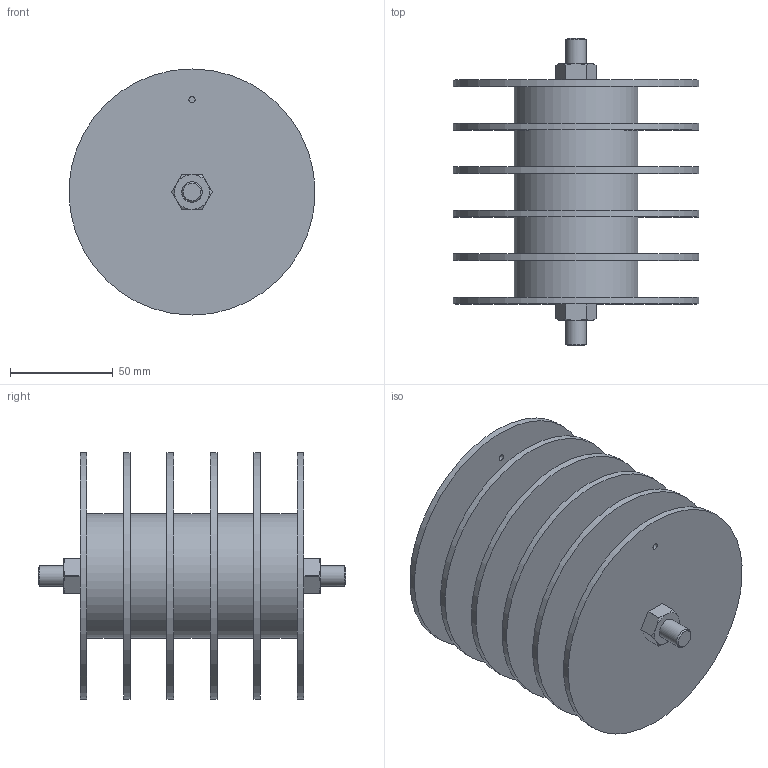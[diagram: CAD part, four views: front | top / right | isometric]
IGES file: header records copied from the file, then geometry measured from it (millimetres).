
Global section: file name: MGR-6; native system: unknown; preprocessor: unknown; author: unknown; organization: unknown; date: 20230628.154154; units: millimetre
Bounding box: 119.76 x 150 x 120 mm (x, y, z)
Volume: 480991.8 mm3; surface area: 141641.4 mm2
Topology: 4 solids, 4 shells, 77 faces, 187 edges, 128 vertices
Faces by surface type: bspline 77
